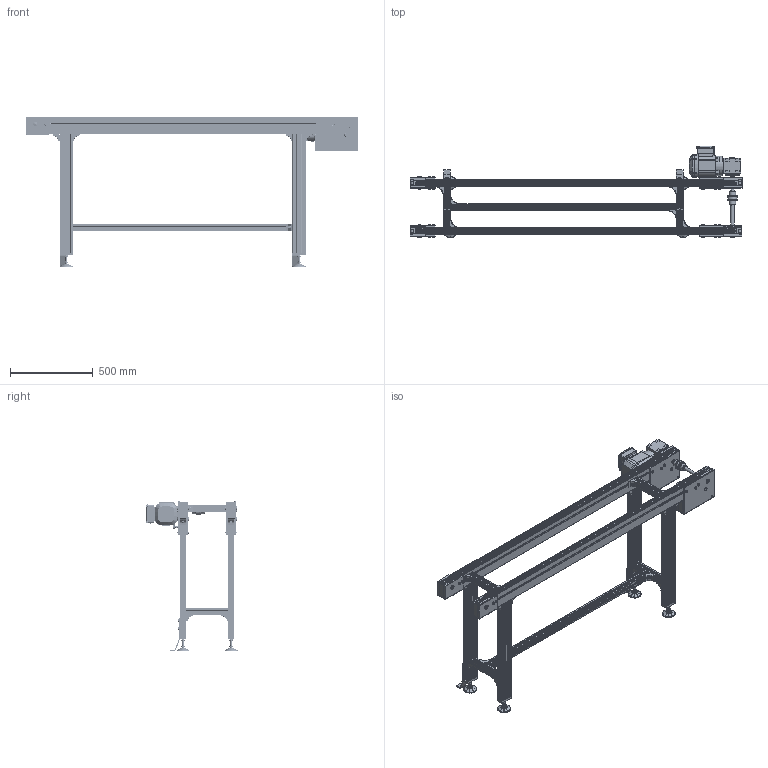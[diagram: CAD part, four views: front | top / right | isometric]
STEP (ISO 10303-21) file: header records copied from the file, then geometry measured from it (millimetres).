
FILE_DESCRIPTION(/* description */ (''),/* implementation_level */ '2;1');
FILE_NAME(/* name */ 'C:\Marketing\01_Versamove-SPU_STEP-Dateien-Homepage\VersamoveStandard\B320\Step-Dateien\Staurollenförderer_SRF-P-2045_B320_L2000.stp',/* time_stamp */ '2016-12-19T11:44:11+01:00',/* author */ ('herbert.engels'),/* organization */ (''),/* preprocessor_version */ 'ST-DEVELOPER v15.6',/* originating_system */ 'Autodesk Inventor 2015',/* authorisation */ '');
FILE_SCHEMA (('CONFIG_CONTROL_DESIGN'));
Products named in the file (1): Staurollenförderer_SRF-P-2045_B320_L2000
Bounding box: 2000 x 550.57 x 905.05 mm (x, y, z)
Volume: 27617194.9 mm3; surface area: 5819749.9 mm2
Topology: 7 solids, 7 shells, 5282 faces, 14170 edges, 9130 vertices
Faces by surface type: plane 3224, cylinder 1496, cone 373, torus 123, sphere 50, bspline 16
Full cylindrical faces by diameter (mm): 2 x8, 6 x12, 6.647 x8, 7.323 x4, 8 x66, 8.5 x48, 8.7 x4, 9 x8, 10 x4, 10.066 x1, 11.4 x24, 12 x8, 13 x74, 13.6 x8, 14 x40, 15 x8, 16 x10, 18 x4, 19 x4, 19.77 x4, 20 x17, 25 x1, 25.05 x4, 28 x1, 30 x2, 40 x2, 53 x1, 54 x2, 56 x3, 79 x4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
Entity records: 169910 total; most frequent: CARTESIAN_POINT 33430, ORIENTED_EDGE 26916, DIRECTION 26900, EDGE_CURVE 13449, AXIS2_PLACEMENT_3D 9107, VERTEX_POINT 8959, LINE 8686, VECTOR 8686
